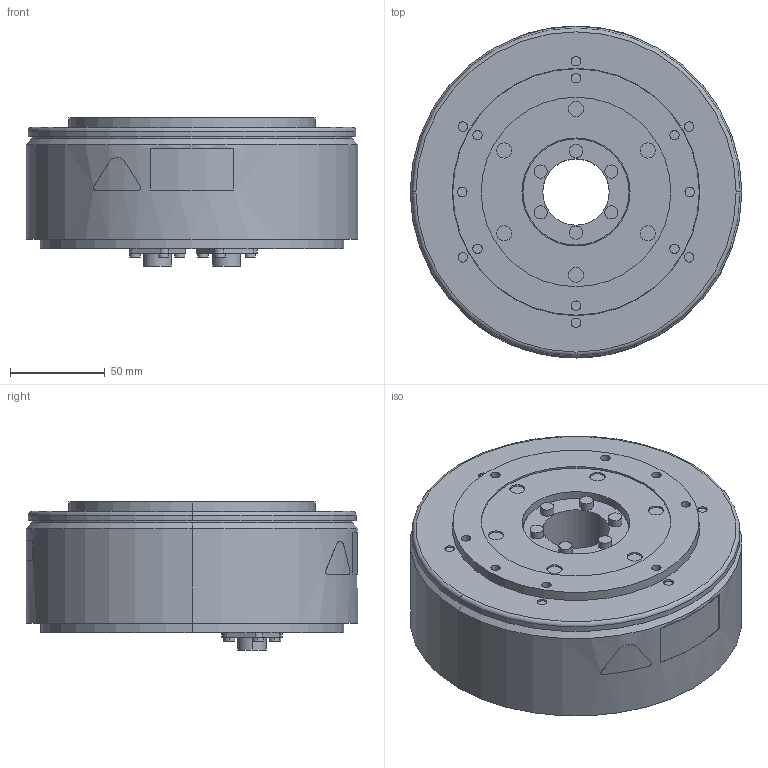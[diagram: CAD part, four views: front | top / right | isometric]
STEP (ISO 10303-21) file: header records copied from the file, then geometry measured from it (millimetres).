
FILE_DESCRIPTION (( 'STEP AP203' ), '1' );
FILE_NAME ('sgm7e_04c_a1_.STEP', '2016-03-23T07:21:34', ( '' ), ( '' ), 'SwSTEP 2.0', 'SolidWorks 2010', '' );
FILE_SCHEMA (( 'CONFIG_CONTROL_DESIGN' ));
Length unit declared in the file: millimetre
Products named in the file (1): sgm7e_04c_a1_
Bounding box: 175 x 175.1 x 78.1 mm (x, y, z)
Volume: 1500333.6 mm3; surface area: 97873 mm2
Topology: 1 solids, 1 shells, 294 faces, 646 edges, 428 vertices
Faces by surface type: cylinder 161, plane 122, bspline 5, cone 4, torus 2
Entity records: 8800 total; most frequent: CARTESIAN_POINT 1913, DIRECTION 1554, ORIENTED_EDGE 1292, EDGE_CURVE 646, AXIS2_PLACEMENT_3D 634, VERTEX_POINT 428, EDGE_LOOP 370, CIRCLE 344
